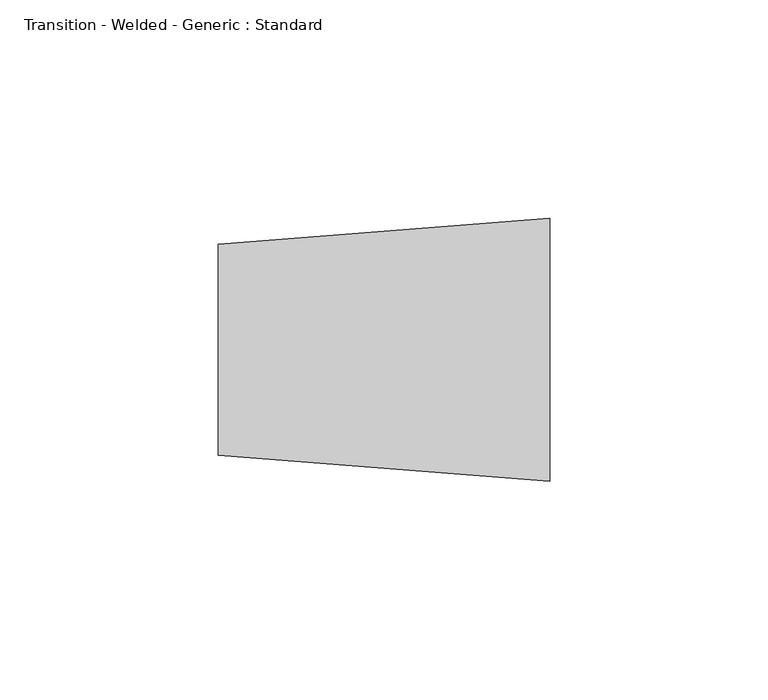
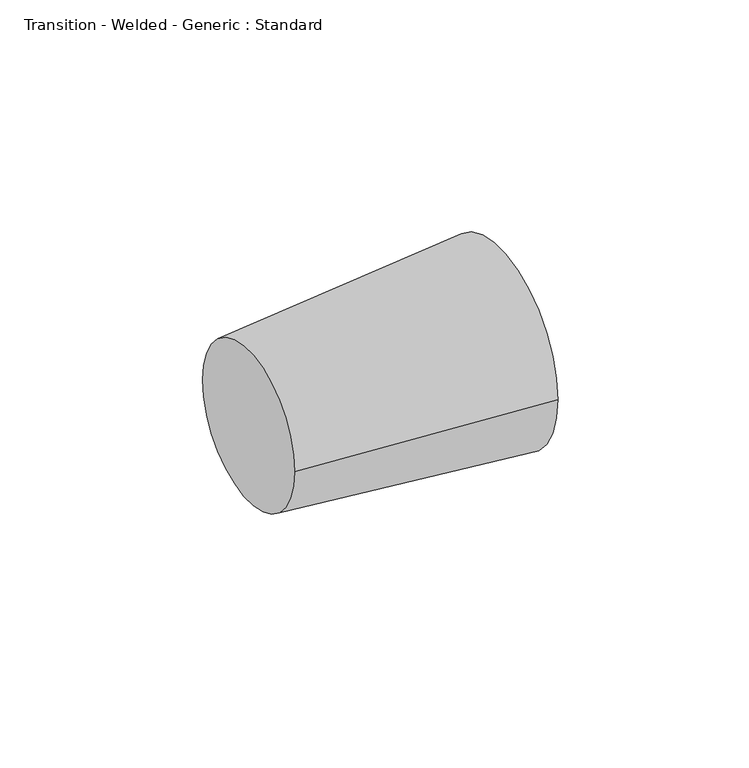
"""IFC4 building model written with IfcOpenShell, lengths in millimetres: pipe fitting geometry, Transition - Welded - Generic : Standard."""

from ifc_helpers import new_model, si_unit, frame, origin, place, context, project, spatial, polyline, circle_curve, source, transform, mapped, element, save
from ifc_brep_helpers import plane_surface, revolved_surface, advanced_brep


def transition_welded_generic_standard_0458f375(model_context):
    return source(origin(), model_context, "Body", "AdvancedBrep", [
        advanced_brep(
        [(76.0, -30.15, 0.0), (76.0, 30.15, 0.0), (0.0, -24.15, 0.0), (0.0, 24.15, 0.0)],
        [
            (0, 1, circle_curve(frame((76.0, 0.0, 0.0), z_axis=(1.0, 0.0, 0.0), x_axis=(0.0, -1.0, 0.0)), 30.15)),
            (1, 0, circle_curve(frame((76.0, 0.0, 0.0), z_axis=(1.0, 0.0, 0.0), x_axis=(0.0, 1.0, 0.0)), 30.15)),
            (2, 3, circle_curve(frame((0.0, 0.0, 0.0), z_axis=(-1.0, 0.0, 0.0), x_axis=(0.0, 1.0, 0.0)), 24.15)),
            (3, 2, circle_curve(frame((0.0, 0.0, 0.0), z_axis=(-1.0, 0.0, 0.0), x_axis=(0.0, -1.0, 0.0)), 24.15)),
            (3, 1),
            (0, 2),
        ],
        [
            plane_surface(frame((76.0, 0.0, 0.0), z_axis=(1.0, 0.0, 0.0), x_axis=(0.0, 0.0, -1.0))),
            plane_surface(frame((0.0, 0.0, 0.0), z_axis=(-1.0, 0.0, 0.0), x_axis=(0.0, 0.0, -1.0))),
            revolved_surface(polyline([(0.0, 24.15, 0.0), (76.0, 30.15, 0.0)]), (-305.9, 0.0, 0.0), (1.0, 0.0, 0.0)),
            revolved_surface(polyline([(0.0, -24.15, 0.0), (76.0, -30.15, 0.0)]), (-305.9, 0.0, 0.0), (1.0, 0.0, 0.0)),
        ],
        [
            (0, [[1, 2]]),
            (1, [[3, 4]]),
            (2, [[-4, 5, -1, 6]]),
            (3, [[-3, -6, -2, -5]]),
        ],
    ),
    ])


if __name__ == "__main__":
    model = new_model("IFC4")
    model_context = context("Model", 3, world=origin())
    ifc_project = project(units=[si_unit("LENGTHUNIT", "METRE", prefix="MILLI")], contexts=[model_context])
    site = spatial("IfcSite", under=ifc_project)
    building = spatial("IfcBuilding", under=site)
    placement = place(None, origin())
    transition_welded_generic_standard_shape = transition_welded_generic_standard_0458f375(model_context)
    element("IfcPipeFitting", 1, ObjectType="Transition - Welded - Generic : Standard", at=placement, inside=building, context=model_context, shape_type="MappedRepresentation", body=[
        mapped(transition_welded_generic_standard_shape, transform((0.0, 0.0, 0.0), x_axis=(1.0, 0.0, 0.0), y_axis=(0.0, 1.0, 0.0), z_axis=(0.0, 0.0, 1.0))),
    ])
    save(model, "model.ifc")
